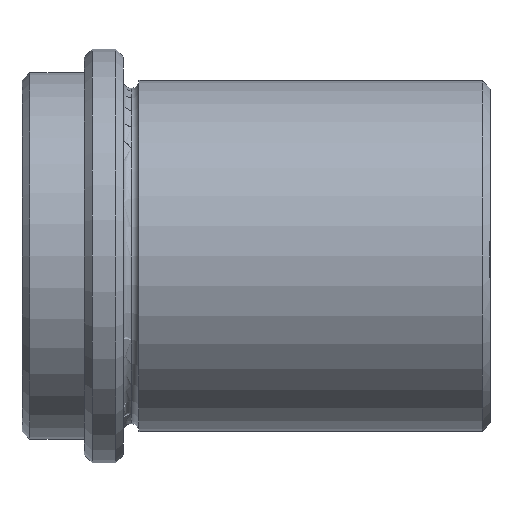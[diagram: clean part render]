
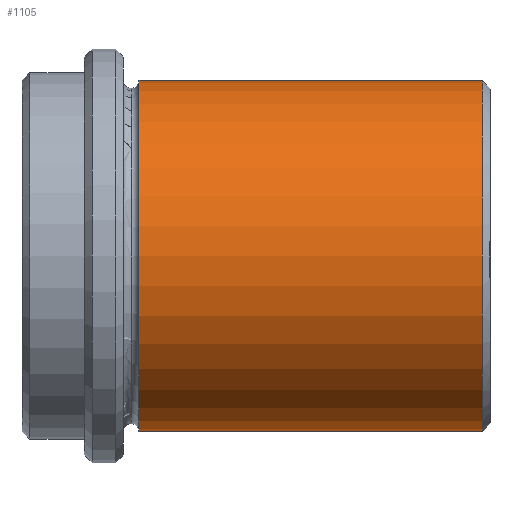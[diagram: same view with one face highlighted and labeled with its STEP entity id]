
A CAD part, left-side view. The second image highlights one B-rep face of the part: STEP entity #1105.
In plain terms, the highlighted cylindrical face has radius 22.5 mm (diameter 45 mm), a partial arc.
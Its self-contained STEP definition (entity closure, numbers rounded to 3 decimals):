
#947=CARTESIAN_POINT('Vertex',(0.,1.,22.5)) ;
#954=CARTESIAN_POINT('Vertex',(0.,1.,-22.5)) ;
#983=CARTESIAN_POINT('Axis2P3D Location',(0.,1.,0.)) ;
#987=CARTESIAN_POINT('Vertex',(-22.5,1.,0.)) ;
#990=CARTESIAN_POINT('Axis2P3D Location',(0.,1.,0.)) ;
#1015=CARTESIAN_POINT('Vertex',(0.,45.,22.5)) ;
#1022=CARTESIAN_POINT('Vertex',(0.,45.,-22.5)) ;
#1048=CARTESIAN_POINT('Axis2P3D Location',(0.,45.,0.)) ;
#1052=CARTESIAN_POINT('Vertex',(-22.5,45.,0.)) ;
#1055=CARTESIAN_POINT('Axis2P3D Location',(0.,45.,0.)) ;
#1073=CARTESIAN_POINT('Line Origine',(0.,0.,-22.5)) ;
#1078=CARTESIAN_POINT('Line Origine',(0.,0.,22.5)) ;
#1092=CARTESIAN_POINT('Axis2P3D Location',(0.,0.,0.)) ;
#984=DIRECTION('Axis2P3D Direction',(-0.,1.,0.)) ;
#991=DIRECTION('Axis2P3D Direction',(-0.,1.,0.)) ;
#1049=DIRECTION('Axis2P3D Direction',(0.,-1.,0.)) ;
#1056=DIRECTION('Axis2P3D Direction',(0.,-1.,0.)) ;
#1074=DIRECTION('Vector Direction',(0.,1.,0.)) ;
#1079=DIRECTION('Vector Direction',(0.,1.,0.)) ;
#1093=DIRECTION('Axis2P3D Direction',(0.,1.,0.)) ;
#1094=DIRECTION('Axis2P3D XDirection',(0.,0.,-1.)) ;
#985=AXIS2_PLACEMENT_3D('Circle Axis2P3D',#983,#984,$) ;
#992=AXIS2_PLACEMENT_3D('Circle Axis2P3D',#990,#991,$) ;
#1050=AXIS2_PLACEMENT_3D('Circle Axis2P3D',#1048,#1049,$) ;
#1057=AXIS2_PLACEMENT_3D('Circle Axis2P3D',#1055,#1056,$) ;
#1095=AXIS2_PLACEMENT_3D('Cylinder Axis2P3D',#1092,#1093,#1094) ;
#1098=ORIENTED_EDGE('',*,*,#1082,.T.) ;
#1099=ORIENTED_EDGE('',*,*,#1059,.T.) ;
#1100=ORIENTED_EDGE('',*,*,#1054,.T.) ;
#1101=ORIENTED_EDGE('',*,*,#1077,.T.) ;
#1102=ORIENTED_EDGE('',*,*,#994,.F.) ;
#1103=ORIENTED_EDGE('',*,*,#989,.F.) ;
#1075=VECTOR('Line Direction',#1074,1.) ;
#1080=VECTOR('Line Direction',#1079,1.) ;
#1105=ADVANCED_FACE('CF 439 32x60',(#1104),#1096,.T.) ;
#986=CIRCLE('generated circle',#985,22.5) ;
#993=CIRCLE('generated circle',#992,22.5) ;
#1051=CIRCLE('generated circle',#1050,22.5) ;
#1058=CIRCLE('generated circle',#1057,22.5) ;
#1096=CYLINDRICAL_SURFACE('generated cylinder',#1095,22.5) ;
#989=EDGE_CURVE('',#948,#988,#986,.F.) ;
#994=EDGE_CURVE('',#988,#955,#993,.F.) ;
#1054=EDGE_CURVE('',#1053,#1023,#1051,.T.) ;
#1059=EDGE_CURVE('',#1016,#1053,#1058,.T.) ;
#1077=EDGE_CURVE('',#1023,#955,#1076,.F.) ;
#1082=EDGE_CURVE('',#948,#1016,#1081,.T.) ;
#1097=EDGE_LOOP('',(#1098,#1099,#1100,#1101,#1102,#1103)) ;
#1104=FACE_OUTER_BOUND('',#1097,.T.) ;
#1076=LINE('Line',#1073,#1075) ;
#1081=LINE('Line',#1078,#1080) ;
#948=VERTEX_POINT('',#947) ;
#955=VERTEX_POINT('',#954) ;
#988=VERTEX_POINT('',#987) ;
#1016=VERTEX_POINT('',#1015) ;
#1023=VERTEX_POINT('',#1022) ;
#1053=VERTEX_POINT('',#1052) ;
